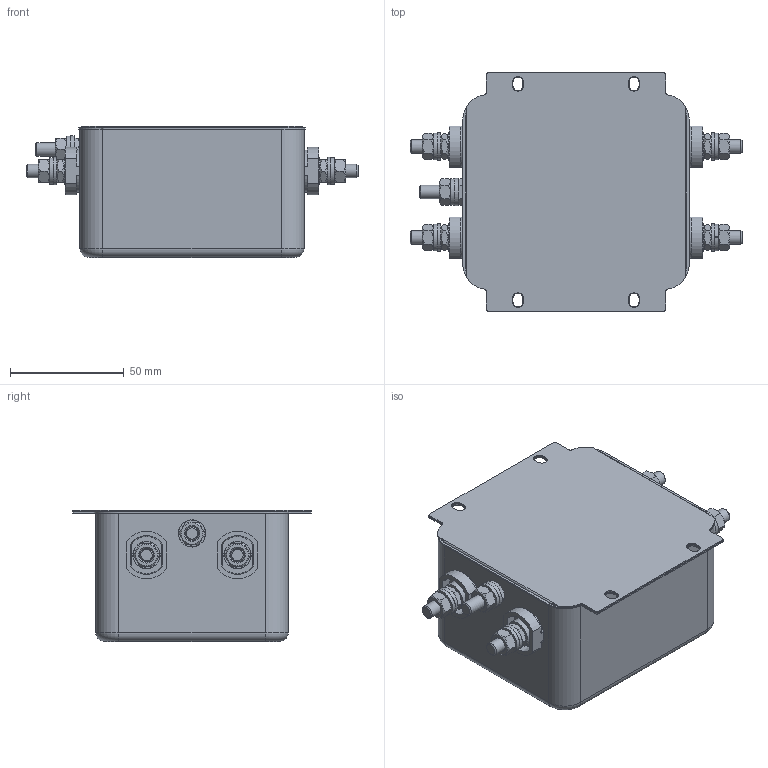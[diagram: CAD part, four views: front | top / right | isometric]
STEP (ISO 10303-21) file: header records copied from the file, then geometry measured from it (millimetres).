
FILE_DESCRIPTION((''),'2;1');
FILE_NAME('K:\Development\Product_FN\FN2020\FN2020-60-24 (292-884)\40_Realisation\402_CAD\4022_Mechanical design\Drawing\FN2020A-60-24-1111.stp','2012-12-13T13:13:55',('BIN.FAN'),(''),'Autodesk Inventor 2010','Autodesk Inventor 2010','');
FILE_SCHEMA(('AUTOMOTIVE_DESIGN { 1 0 10303 214 1 1 1 1 }'));
Length unit declared in the file: millimetre
Products named in the file (1): FN2020A-60-24
Bounding box: 145.9 x 105 x 57.6 mm (x, y, z)
Volume: 487043.7 mm3; surface area: 57787.6 mm2
Topology: 1 solids, 1 shells, 408 faces, 1057 edges, 672 vertices
Faces by surface type: plane 223, cylinder 120, cone 53, torus 12
Full cylindrical faces by diameter (mm): 6 x10, 6.4 x5, 12 x9
Entity records: 12228 total; most frequent: CARTESIAN_POINT 2263, DIRECTION 2052, ORIENTED_EDGE 1924, EDGE_CURVE 962, AXIS2_PLACEMENT_3D 807, VERTEX_POINT 640, EDGE_LOOP 526, VECTOR 438
